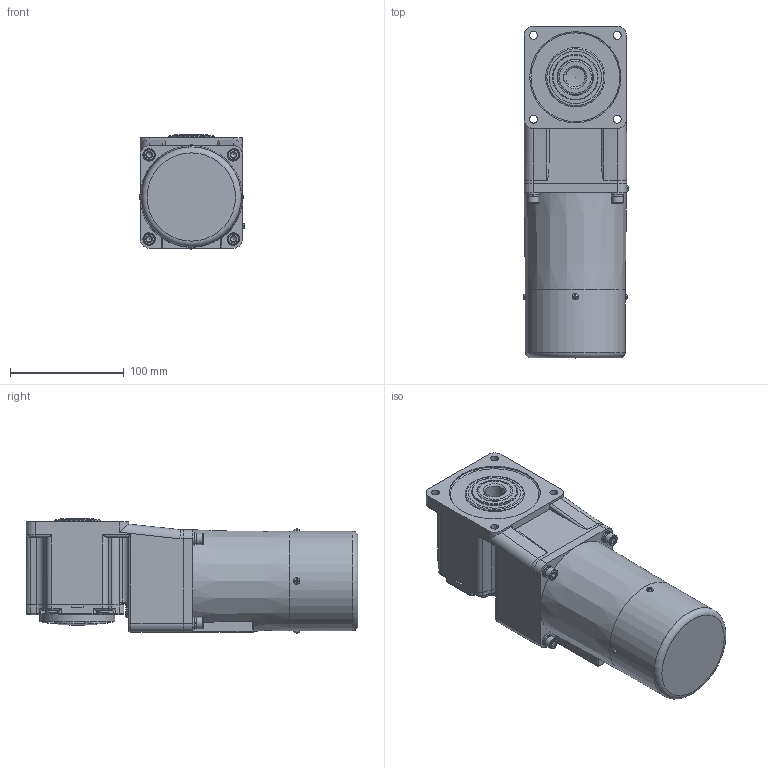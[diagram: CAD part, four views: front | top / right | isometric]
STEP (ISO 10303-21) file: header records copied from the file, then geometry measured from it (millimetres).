
FILE_DESCRIPTION(/* description */ (''),/* implementation_level */ '2;1');
FILE_NAME(/* name */ '90+中空直角-调速刹车-40W.stp',/* time_stamp */ '2022-09-27T10:39:15+08:00',/* author */ (''),/* organization */ (''),/* preprocessor_version */ 'ST-DEVELOPER v16.7',/* originating_system */ 'SIEMENS PLM Software NX 1899',/* authorisation */ '');
FILE_SCHEMA (('AP203_CONFIGURATION_CONTROLLED_3D_DESIGN_OF_MECHANICAL_PARTS_AND_ASSEMBLIES_MIM_LF { 1 0 10303 403 2 1 2}'));
Length unit declared in the file: millimetre
Products named in the file (1): yf1815905F60ugpd
Bounding box: 92.71 x 291.5 x 100.25 mm (x, y, z)
Volume: 1931493.8 mm3; surface area: 161453.5 mm2
Topology: 15 solids, 15 shells, 680 faces, 1614 edges, 985 vertices
Faces by surface type: plane 348, cylinder 205, torus 60, cone 49, sphere 10, bspline 8
Full cylindrical faces by diameter (mm): 3.3 x2, 4.5 x2, 5 x4, 5.5 x4, 5.795 x4, 6.4 x4, 7 x8, 9.5 x4, 10 x4, 11 x4, 30 x2, 40 x1, 47 x1, 47.5 x1, 52 x1, 60 x1, 60.5 x1, 66 x1, 67 x1, 76 x1, 80 x1, 86 x2, 87.6 x1
Entity records: 20764 total; most frequent: CARTESIAN_POINT 4570, DIRECTION 3168, ORIENTED_EDGE 2870, EDGE_CURVE 1435, AXIS2_PLACEMENT_3D 1250, VERTEX_POINT 931, EDGE_LOOP 846, ADVANCED_FACE 680
